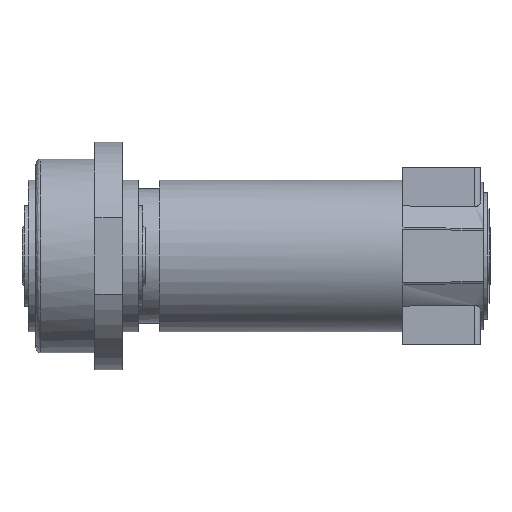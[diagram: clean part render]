
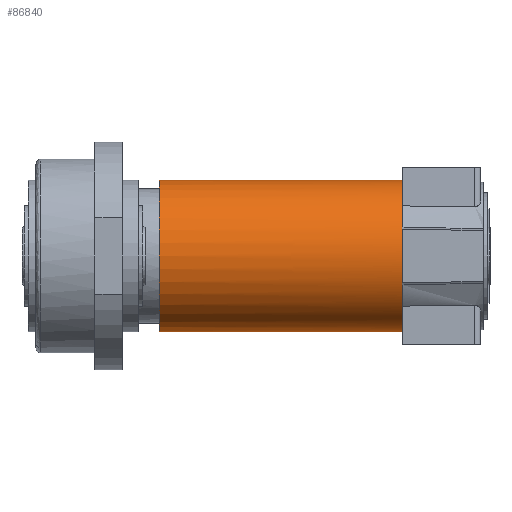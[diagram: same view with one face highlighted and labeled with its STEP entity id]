
A CAD part, front view. The second image highlights one B-rep face of the part: STEP entity #86840.
In plain terms, the highlighted cylindrical face has radius 45 mm (diameter 90 mm), a partial arc.
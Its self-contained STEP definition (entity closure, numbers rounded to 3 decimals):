
#17800=CARTESIAN_POINT('',(-64.,458.874,
-134.584));
#17810=DIRECTION('',(0.,1.,
-0.026));
#17820=DIRECTION('',(1.,0.,0.));
#17830=AXIS2_PLACEMENT_3D('',#17800,#17810,#17820);
#17840=CIRCLE('',#17830,45.);
#17850=CARTESIAN_POINT('',(-19.,458.874,
-134.584));
#17860=VERTEX_POINT('',#17850);
#17870=CARTESIAN_POINT('',(-109.,458.874,
-134.584));
#17880=VERTEX_POINT('',#17870);
#17890=EDGE_CURVE('',#17860,#17880,#17840,.T.);
#20820=CARTESIAN_POINT('',(-64.,458.874,
-134.584));
#20830=DIRECTION('',(0.,1.,
-0.026));
#20840=DIRECTION('',(1.,0.,0.));
#20850=AXIS2_PLACEMENT_3D('',#20820,#20830,#20840);
#20860=CYLINDRICAL_SURFACE('',#20850,45.);
#20870=CARTESIAN_POINT('',(-109.,458.874,
-134.584));
#20880=DIRECTION('',(0.,1.,
-0.026));
#20890=VECTOR('',#20880,1.);
#20900=LINE('',#20870,#20890);
#20910=CARTESIAN_POINT('',(-109.,602.825,
-138.354));
#20920=VERTEX_POINT('',#20910);
#20930=EDGE_CURVE('',#17880,#20920,#20900,.T.);
#20950=CARTESIAN_POINT('',(-64.,602.825,
-138.354));
#20960=DIRECTION('',(0.,1.,
-0.026));
#20970=DIRECTION('',(1.,0.,0.));
#20980=AXIS2_PLACEMENT_3D('',#20950,#20960,#20970);
#20990=CIRCLE('',#20980,45.);
#21000=CARTESIAN_POINT('',(-19.,602.825,
-138.354));
#21010=VERTEX_POINT('',#21000);
#21040=CARTESIAN_POINT('',(-19.,458.874,
-134.584));
#21050=DIRECTION('',(0.,1.,
-0.026));
#21060=VECTOR('',#21050,1.);
#21070=LINE('',#21040,#21060);
#21080=EDGE_CURVE('',#17860,#21010,#21070,.T.);
#21190=EDGE_CURVE('',#21010,#20920,#20990,.T.);
#86780=ORIENTED_EDGE('',*,*,#21190,.F.);
#86790=ORIENTED_EDGE('',*,*,#20930,.T.);
#86800=ORIENTED_EDGE('',*,*,#17890,.T.);
#86810=ORIENTED_EDGE('',*,*,#21080,.F.);
#86820=EDGE_LOOP('',(#86810,#86800,#86790,#86780));
#86830=FACE_OUTER_BOUND('',#86820,.T.);
#86840=ADVANCED_FACE('',(#86830),#20860,.T.);
